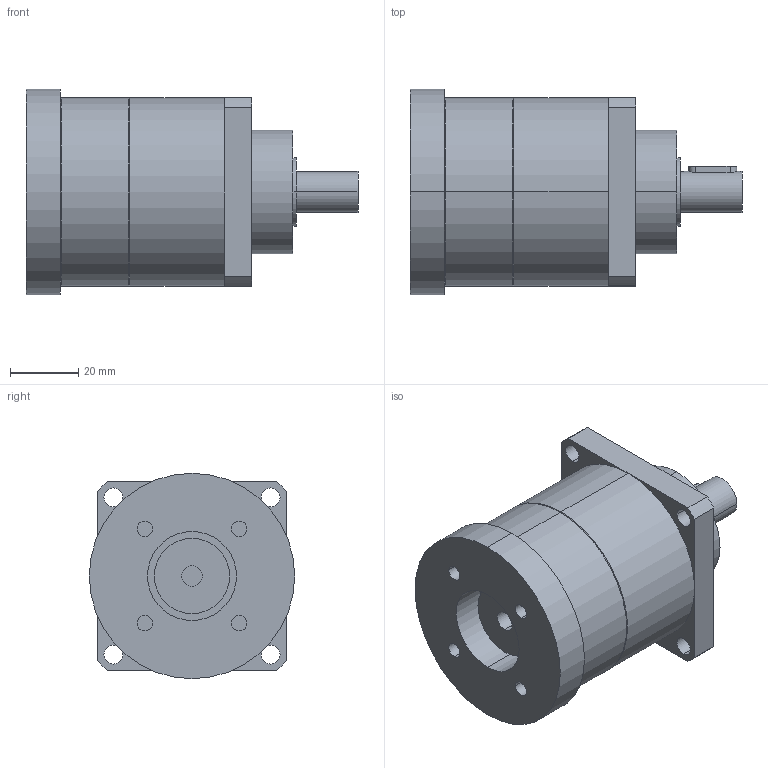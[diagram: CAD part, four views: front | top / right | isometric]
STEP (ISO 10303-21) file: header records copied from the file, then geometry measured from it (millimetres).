
FILE_DESCRIPTION(('CoCreate Modeling STEP Export'),'2;1');
FILE_NAME('GPT55_ig-3-4-5-7-10_12_B5A_6_P10.stp','2014-08-25T14:32:41',(''),(''),'CoCreate Modeling STEP processor for AP214 (Solid Model)','CoCreate Modeling 16.00C 25-Feb-2009 (C) Parametric Technology GmbH','');
FILE_SCHEMA(('AUTOMOTIVE_DESIGN { 1 0 10303 214 1 1 1 1 }'));
Length unit declared in the file: millimetre
Products named in the file (2): GPT55_ig-3-4-5-7-10_12_B5A_6_P10
Assembly tree (1 placements, depth 2):
  GPT55_ig-3-4-5-7-10_12_B5A_6_P10
    GPT55_ig-3-4-5-7-10_12_B5A_6_P10
Bounding box: 97 x 60 x 60 mm (x, y, z)
Volume: 174689.8 mm3; surface area: 23623.9 mm2
Topology: 1 solids, 1 shells, 72 faces, 180 edges, 123 vertices
Faces by surface type: cylinder 42, plane 26, cone 4
Entity records: 2237 total; most frequent: CARTESIAN_POINT 661, ORIENTED_EDGE 360, DIRECTION 268, EDGE_CURVE 180, VERTEX_POINT 123, AXIS2_PLACEMENT_3D 100, EDGE_LOOP 93, FACE_OUTER_BOUND 72
